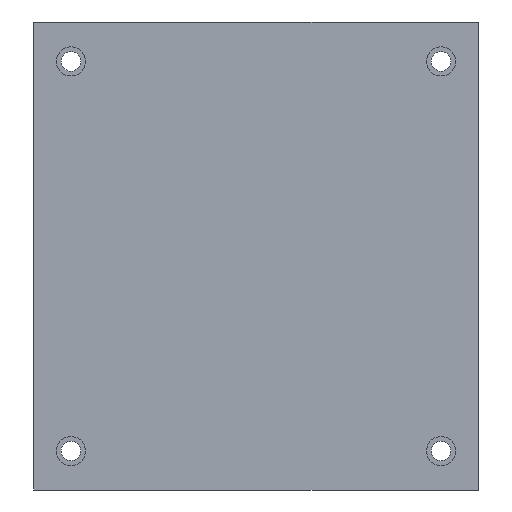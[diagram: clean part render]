
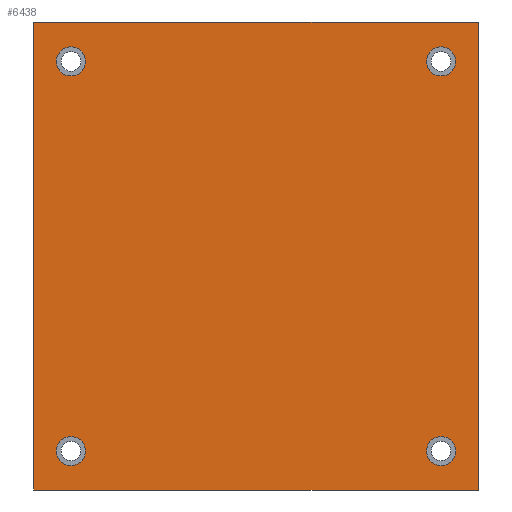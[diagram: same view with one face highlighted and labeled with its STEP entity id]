
A CAD part, front view. The second image highlights one B-rep face of the part: STEP entity #6438.
In plain terms, the highlighted planar face has unit normal (0, -1, 0).
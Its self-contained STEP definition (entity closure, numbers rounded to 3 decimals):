
#393 = ORIENTED_EDGE ( 'NONE', *, *, #14868, .F. ) ;
#440 = EDGE_CURVE ( 'NONE', #12061, #2346, #4863, .T. ) ;
#638 = ORIENTED_EDGE ( 'NONE', *, *, #3207, .F. ) ;
#718 = CIRCLE ( 'NONE', #11830, 1.9 ) ;
#1009 = VECTOR ( 'NONE', #1012, 1000. ) ;
#1012 = DIRECTION ( 'NONE',  ( 0., 0., 1. ) ) ;
#2209 = ORIENTED_EDGE ( 'NONE', *, *, #2979, .F. ) ;
#2239 = CARTESIAN_POINT ( 'NONE',  ( 12.574, 0., -63.988 ) ) ;
#2346 = VERTEX_POINT ( 'NONE', #14799 ) ;
#2979 = EDGE_CURVE ( 'NONE', #24902, #7679, #9373, .T. ) ;
#3196 = CARTESIAN_POINT ( 'NONE',  ( 12.574, 0., -63.988 ) ) ;
#3207 = EDGE_CURVE ( 'NONE', #20558, #10513, #25304, .T. ) ;
#3257 = CARTESIAN_POINT ( 'NONE',  ( 60.834, 0., -63.988 ) ) ;
#3258 = CIRCLE ( 'NONE', #20642, 1.9 ) ;
#3318 = DIRECTION ( 'NONE',  ( 0., 0., -1. ) ) ;
#3353 = AXIS2_PLACEMENT_3D ( 'NONE', #7105, #14944, #3318 ) ;
#3643 = DIRECTION ( 'NONE',  ( 0., -1., 0. ) ) ;
#3655 = CARTESIAN_POINT ( 'NONE',  ( 60.834, 0., -15.088 ) ) ;
#4183 = DIRECTION ( 'NONE',  ( 0., 0., -1. ) ) ;
#4344 = VERTEX_POINT ( 'NONE', #16341 ) ;
#4863 = CIRCLE ( 'NONE', #6175, 1.9 ) ;
#5123 = DIRECTION ( 'NONE',  ( 0., 0., -1. ) ) ;
#5190 = DIRECTION ( 'NONE',  ( 0., 0., -1. ) ) ;
#5567 = CARTESIAN_POINT ( 'NONE',  ( 12.574, 0., -11.288 ) ) ;
#5677 = EDGE_CURVE ( 'NONE', #24134, #13044, #23820, .T. ) ;
#6037 = FACE_BOUND ( 'NONE', #18433, .T. ) ;
#6175 = AXIS2_PLACEMENT_3D ( 'NONE', #2239, #15858, #4183 ) ;
#6324 = EDGE_LOOP ( 'NONE', ( #638, #393 ) ) ;
#6438 = ADVANCED_FACE ( 'NONE', ( #16403, #6037, #21608, #17638, #20986 ), #11027, .T. ) ;
#6671 = EDGE_CURVE ( 'NONE', #23540, #24134, #10007, .T. ) ;
#7105 = CARTESIAN_POINT ( 'NONE',  ( 7.748, 0., -69.068 ) ) ;
#7627 = CARTESIAN_POINT ( 'NONE',  ( 7.748, 0., -69.068 ) ) ;
#7679 = VERTEX_POINT ( 'NONE', #12607 ) ;
#7747 = EDGE_CURVE ( 'NONE', #4344, #23540, #23081, .T. ) ;
#7894 = CARTESIAN_POINT ( 'NONE',  ( 60.834, 0., -63.988 ) ) ;
#8422 = EDGE_CURVE ( 'NONE', #7679, #24902, #16909, .T. ) ;
#8428 = CARTESIAN_POINT ( 'NONE',  ( 60.834, 0., -13.188 ) ) ;
#8638 = VERTEX_POINT ( 'NONE', #5567 ) ;
#8781 = DIRECTION ( 'NONE',  ( 0., -1., 0. ) ) ;
#9128 = AXIS2_PLACEMENT_3D ( 'NONE', #3257, #16877, #5190 ) ;
#9373 = CIRCLE ( 'NONE', #13515, 1.9 ) ;
#9565 = EDGE_CURVE ( 'NONE', #13044, #4344, #11936, .T. ) ;
#9691 = ORIENTED_EDGE ( 'NONE', *, *, #8422, .F. ) ;
#9774 = ORIENTED_EDGE ( 'NONE', *, *, #6671, .F. ) ;
#9842 = DIRECTION ( 'NONE',  ( 0., 0., -1. ) ) ;
#10007 = LINE ( 'NONE', #21614, #14556 ) ;
#10380 = DIRECTION ( 'NONE',  ( 0., 0., -1. ) ) ;
#10513 = VERTEX_POINT ( 'NONE', #15963 ) ;
#10582 = CARTESIAN_POINT ( 'NONE',  ( 65.66, 0., -8.108 ) ) ;
#10904 = CARTESIAN_POINT ( 'NONE',  ( 12.574, 0., -65.888 ) ) ;
#11027 = PLANE ( 'NONE',  #3353 ) ;
#11225 = EDGE_LOOP ( 'NONE', ( #21830, #12578, #9774, #13680 ) ) ;
#11589 = CARTESIAN_POINT ( 'NONE',  ( 12.574, 0., -13.188 ) ) ;
#11830 = AXIS2_PLACEMENT_3D ( 'NONE', #3196, #16821, #5123 ) ;
#11936 = LINE ( 'NONE', #24392, #1009 ) ;
#12061 = VERTEX_POINT ( 'NONE', #10904 ) ;
#12578 = ORIENTED_EDGE ( 'NONE', *, *, #5677, .F. ) ;
#12607 = CARTESIAN_POINT ( 'NONE',  ( 60.834, 0., -11.288 ) ) ;
#12941 = ORIENTED_EDGE ( 'NONE', *, *, #19912, .F. ) ;
#13044 = VERTEX_POINT ( 'NONE', #18731 ) ;
#13482 = DIRECTION ( 'NONE',  ( -1., 0., 0. ) ) ;
#13515 = AXIS2_PLACEMENT_3D ( 'NONE', #8428, #22098, #10380 ) ;
#13524 = DIRECTION ( 'NONE',  ( 0., 0., -1. ) ) ;
#13637 = VERTEX_POINT ( 'NONE', #22576 ) ;
#13680 = ORIENTED_EDGE ( 'NONE', *, *, #7747, .F. ) ;
#14556 = VECTOR ( 'NONE', #15713, 1000. ) ;
#14679 = AXIS2_PLACEMENT_3D ( 'NONE', #11589, #25298, #13524 ) ;
#14799 = CARTESIAN_POINT ( 'NONE',  ( 12.574, 0., -62.088 ) ) ;
#14868 = EDGE_CURVE ( 'NONE', #10513, #20558, #3258, .T. ) ;
#14944 = DIRECTION ( 'NONE',  ( 0., -1., 0. ) ) ;
#15294 = CARTESIAN_POINT ( 'NONE',  ( 12.574, 0., -13.188 ) ) ;
#15713 = DIRECTION ( 'NONE',  ( 0., 0., -1. ) ) ;
#15726 = ORIENTED_EDGE ( 'NONE', *, *, #22345, .F. ) ;
#15858 = DIRECTION ( 'NONE',  ( 0., -1., 0. ) ) ;
#15963 = CARTESIAN_POINT ( 'NONE',  ( 60.834, 0., -65.888 ) ) ;
#16255 = EDGE_LOOP ( 'NONE', ( #15726, #12941 ) ) ;
#16341 = CARTESIAN_POINT ( 'NONE',  ( 7.748, 0., -8.108 ) ) ;
#16358 = ORIENTED_EDGE ( 'NONE', *, *, #17341, .F. ) ;
#16403 = FACE_BOUND ( 'NONE', #16255, .T. ) ;
#16821 = DIRECTION ( 'NONE',  ( 0., -1., 0. ) ) ;
#16877 = DIRECTION ( 'NONE',  ( 0., -1., 0. ) ) ;
#16909 = CIRCLE ( 'NONE', #23363, 1.9 ) ;
#17261 = VECTOR ( 'NONE', #22566, 1000. ) ;
#17270 = DIRECTION ( 'NONE',  ( 0., 0., -1. ) ) ;
#17341 = EDGE_CURVE ( 'NONE', #2346, #12061, #718, .T. ) ;
#17638 = FACE_BOUND ( 'NONE', #21346, .T. ) ;
#18433 = EDGE_LOOP ( 'NONE', ( #9691, #2209 ) ) ;
#18486 = ORIENTED_EDGE ( 'NONE', *, *, #440, .F. ) ;
#18592 = CARTESIAN_POINT ( 'NONE',  ( 65.66, 0., -69.068 ) ) ;
#18731 = CARTESIAN_POINT ( 'NONE',  ( 7.748, 0., -69.068 ) ) ;
#19188 = CARTESIAN_POINT ( 'NONE',  ( 60.834, 0., -62.088 ) ) ;
#19255 = AXIS2_PLACEMENT_3D ( 'NONE', #15294, #3643, #17270 ) ;
#19912 = EDGE_CURVE ( 'NONE', #13637, #8638, #22772, .T. ) ;
#20478 = CARTESIAN_POINT ( 'NONE',  ( 60.834, 0., -13.188 ) ) ;
#20558 = VERTEX_POINT ( 'NONE', #19188 ) ;
#20569 = CARTESIAN_POINT ( 'NONE',  ( 7.748, 0., -8.108 ) ) ;
#20642 = AXIS2_PLACEMENT_3D ( 'NONE', #7894, #21549, #9842 ) ;
#20986 = FACE_OUTER_BOUND ( 'NONE', #11225, .T. ) ;
#21346 = EDGE_LOOP ( 'NONE', ( #16358, #18486 ) ) ;
#21549 = DIRECTION ( 'NONE',  ( 0., -1., 0. ) ) ;
#21608 = FACE_BOUND ( 'NONE', #6324, .T. ) ;
#21614 = CARTESIAN_POINT ( 'NONE',  ( 65.66, 0., -8.108 ) ) ;
#21830 = ORIENTED_EDGE ( 'NONE', *, *, #9565, .F. ) ;
#22098 = DIRECTION ( 'NONE',  ( 0., -1., 0. ) ) ;
#22345 = EDGE_CURVE ( 'NONE', #8638, #13637, #23597, .T. ) ;
#22469 = DIRECTION ( 'NONE',  ( 0., 0., -1. ) ) ;
#22566 = DIRECTION ( 'NONE',  ( 1., 0., 0. ) ) ;
#22576 = CARTESIAN_POINT ( 'NONE',  ( 12.574, 0., -15.088 ) ) ;
#22772 = CIRCLE ( 'NONE', #19255, 1.9 ) ;
#23081 = LINE ( 'NONE', #20569, #17261 ) ;
#23194 = VECTOR ( 'NONE', #13482, 1000. ) ;
#23363 = AXIS2_PLACEMENT_3D ( 'NONE', #20478, #8781, #22469 ) ;
#23540 = VERTEX_POINT ( 'NONE', #10582 ) ;
#23597 = CIRCLE ( 'NONE', #14679, 1.9 ) ;
#23820 = LINE ( 'NONE', #7627, #23194 ) ;
#24134 = VERTEX_POINT ( 'NONE', #18592 ) ;
#24392 = CARTESIAN_POINT ( 'NONE',  ( 7.748, 0., -8.108 ) ) ;
#24902 = VERTEX_POINT ( 'NONE', #3655 ) ;
#25298 = DIRECTION ( 'NONE',  ( 0., -1., 0. ) ) ;
#25304 = CIRCLE ( 'NONE', #9128, 1.9 ) ;
